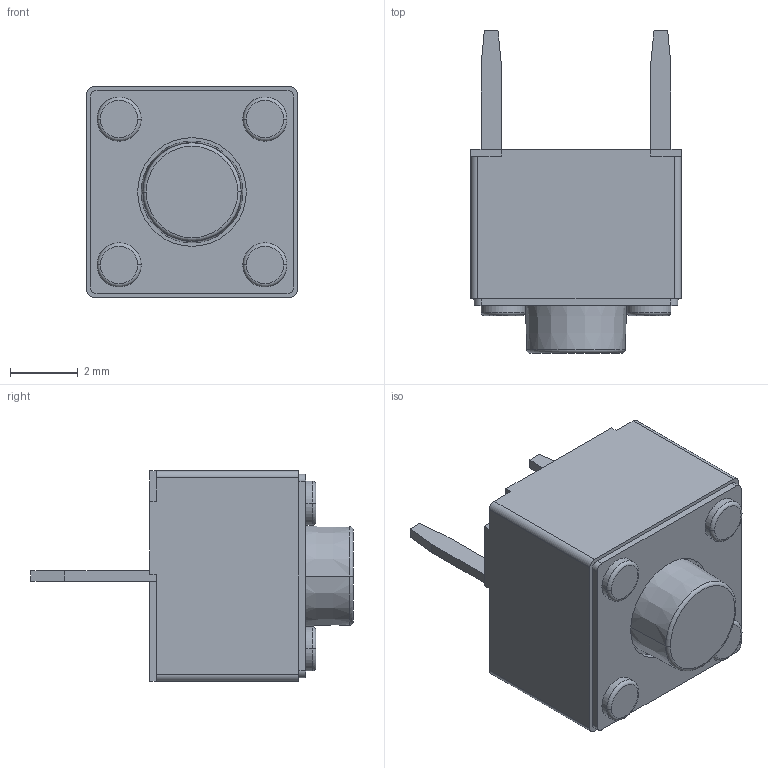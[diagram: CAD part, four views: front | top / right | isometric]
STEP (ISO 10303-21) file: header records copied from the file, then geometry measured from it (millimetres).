
FILE_DESCRIPTION((''),'2;1');
FILE_NAME('JSE6060-H0350-30C-104_ASM','2026-05-26T11:18:22',('Admin'),(''),'CREO PARAMETRIC BY PTC INC, 2019224','CREO PARAMETRIC BY PTC INC, 2019224','');
FILE_SCHEMA(('AUTOMOTIVE_DESIGN { 1 0 10303 214 1 1 1 1 }'));
Length unit declared in the file: millimetre
Products named in the file (3): JSE6060-H0350-30C-104_02; JSE6060-H0350-30C-104_04; JSE6060-H0350-30C-104_ASM
Assembly tree (2 placements, depth 2):
  JSE6060-H0350-30C-104_ASM
    JSE6060-H0350-30C-104_02
    JSE6060-H0350-30C-104_04
Bounding box: 6.2 x 9.5 x 6.2 mm (x, y, z)
Volume: 186.7 mm3; surface area: 284.6 mm2
Topology: 2 solids, 2 shells, 93 faces, 238 edges, 168 vertices
Faces by surface type: plane 47, cylinder 34, torus 10, cone 2
Entity records: 4003 total; most frequent: DIRECTION 538, CARTESIAN_POINT 497, ORIENTED_EDGE 456, PRESENTATION_STYLE_ASSIGNMENT 262, STYLED_ITEM 243, CURVE_STYLE 241, EDGE_CURVE 228, AXIS2_PLACEMENT_3D 196
